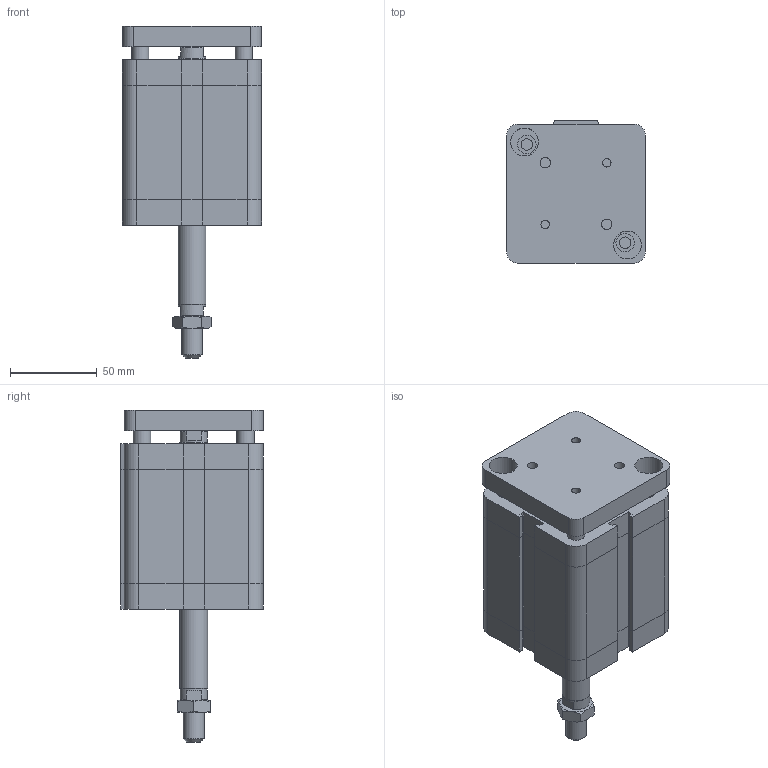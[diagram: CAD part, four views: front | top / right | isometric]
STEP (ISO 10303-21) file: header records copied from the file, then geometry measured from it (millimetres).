
FILE_DESCRIPTION((''),'2;1');
FILE_NAME('I:\Area Tecnica\Disegni\VARIE-3D\Componenti\EUROPE\15##_###_####_09_#\1561_63_0045_09_1.iam.stp','2009-04-20T15:39:14',(''),(''),'Autodesk Inventor 2009','Autodesk Inventor 2009','');
FILE_SCHEMA(('AUTOMOTIVE_DESIGN { 1 0 10303 214 1 1 1 1 }'));
Length unit declared in the file: millimetre
Products named in the file (4): 1561_63_0045_09_1; 1561_63_0045_08_1_C; 1561_63_0045_09_1_SA; DBFM12
Assembly tree (3 placements, depth 2):
  1561_63_0045_09_1
    1561_63_0045_08_1_C
    1561_63_0045_09_1_SA
    DBFM12
Bounding box: 80 x 82 x 191 mm (x, y, z)
Volume: 672784.6 mm3; surface area: 87478.2 mm2
Topology: 3 solids, 3 shells, 209 faces, 470 edges, 287 vertices
Faces by surface type: plane 120, bspline 45, cylinder 23, cone 21
Full cylindrical faces by diameter (mm): 10 x2, 10.8 x1, 12 x1, 15.6 x2, 16 x1
Entity records: 5963 total; most frequent: CARTESIAN_POINT 1453, DIRECTION 838, ORIENTED_EDGE 834, EDGE_CURVE 417, AXIS2_PLACEMENT_3D 282, EDGE_LOOP 282, VECTOR 274, LINE 274
